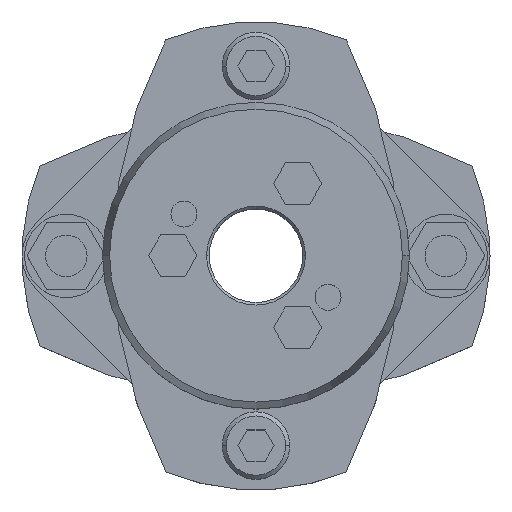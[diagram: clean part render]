
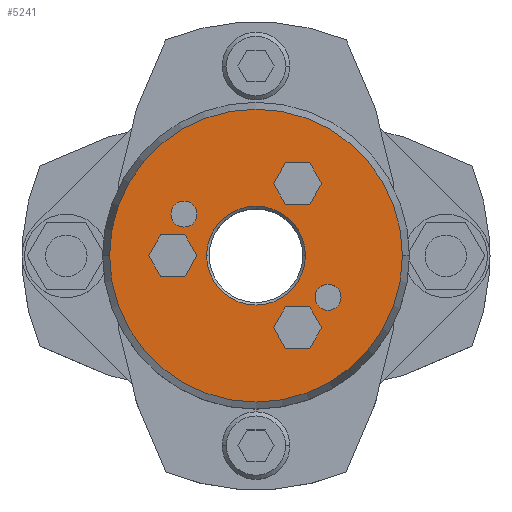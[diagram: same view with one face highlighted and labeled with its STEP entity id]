
A CAD part, top view. The second image highlights one B-rep face of the part: STEP entity #5241.
In plain terms, the highlighted planar face has unit normal (0, 0, 1).
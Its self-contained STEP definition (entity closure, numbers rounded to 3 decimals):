
#857=CARTESIAN_POINT('',(-9.5,0.,39.25));
#858=VERTEX_POINT('',#857);
#874=CARTESIAN_POINT('',(9.5,0.,39.25));
#875=VERTEX_POINT('',#874);
#882=CARTESIAN_POINT('',(0.,0.,39.25));
#883=DIRECTION('',(0.0,0.0,1.0));
#884=DIRECTION('',(-1.0,0.0,0.0));
#885=AXIS2_PLACEMENT_3D('',#882,#883,#884);
#886=CIRCLE('',#885,9.5);
#887=EDGE_CURVE('',#875,#858,#886,.T.);
#1045=CARTESIAN_POINT('',(28.16,0.,39.25));
#1046=VERTEX_POINT('',#1045);
#1053=CARTESIAN_POINT('',(-28.16,0.,39.25));
#1054=VERTEX_POINT('',#1053);
#1055=CARTESIAN_POINT('',(0.,0.,39.25));
#1056=DIRECTION('',(0.0,0.0,-1.0));
#1057=DIRECTION('',(1.0,0.0,0.0));
#1058=AXIS2_PLACEMENT_3D('',#1055,#1056,#1057);
#1059=CIRCLE('',#1058,28.16);
#1060=EDGE_CURVE('',#1046,#1054,#1059,.T.);
#1303=CARTESIAN_POINT('',(-16.356,8.,39.25));
#1304=VERTEX_POINT('',#1303);
#1320=CARTESIAN_POINT('',(-11.356,8.,39.25));
#1321=VERTEX_POINT('',#1320);
#1328=CARTESIAN_POINT('',(-13.856,8.,39.25));
#1329=DIRECTION('',(0.0,0.0,-1.0));
#1330=DIRECTION('',(-1.0,0.0,0.0));
#1331=AXIS2_PLACEMENT_3D('',#1328,#1329,#1330);
#1332=CIRCLE('',#1331,2.5);
#1333=EDGE_CURVE('',#1304,#1321,#1332,.T.);
#1345=CARTESIAN_POINT('',(11.356,-8.,39.25));
#1346=VERTEX_POINT('',#1345);
#1362=CARTESIAN_POINT('',(16.356,-8.,39.25));
#1363=VERTEX_POINT('',#1362);
#1370=CARTESIAN_POINT('',(13.856,-8.,39.25));
#1371=DIRECTION('',(0.0,0.0,-1.0));
#1372=DIRECTION('',(-1.0,0.0,0.0));
#1373=AXIS2_PLACEMENT_3D('',#1370,#1371,#1372);
#1374=CIRCLE('',#1373,2.5);
#1375=EDGE_CURVE('',#1346,#1363,#1374,.T.);
#3757=CARTESIAN_POINT('',(3.381,13.856,39.25));
#3758=VERTEX_POINT('',#3757);
#3765=CARTESIAN_POINT('',(5.691,9.856,39.25));
#3766=VERTEX_POINT('',#3765);
#3767=CARTESIAN_POINT('',(5.691,9.856,39.25));
#3768=DIRECTION('',(-0.5,0.866,0.0));
#3769=VECTOR('',#3768,4.619);
#3770=LINE('',#3767,#3769);
#3771=EDGE_CURVE('',#3766,#3758,#3770,.T.);
#3795=CARTESIAN_POINT('',(5.691,17.856,39.25));
#3796=VERTEX_POINT('',#3795);
#3803=CARTESIAN_POINT('',(3.381,13.856,39.25));
#3804=DIRECTION('',(0.5,0.866,0.0));
#3805=VECTOR('',#3804,4.619);
#3806=LINE('',#3803,#3805);
#3807=EDGE_CURVE('',#3758,#3796,#3806,.T.);
#3826=CARTESIAN_POINT('',(10.309,17.856,39.25));
#3827=VERTEX_POINT('',#3826);
#3834=CARTESIAN_POINT('',(5.691,17.856,39.25));
#3835=DIRECTION('',(1.0,0.0,0.0));
#3836=VECTOR('',#3835,4.619);
#3837=LINE('',#3834,#3836);
#3838=EDGE_CURVE('',#3796,#3827,#3837,.T.);
#3857=CARTESIAN_POINT('',(12.619,13.856,39.25));
#3858=VERTEX_POINT('',#3857);
#3865=CARTESIAN_POINT('',(10.309,17.856,39.25));
#3866=DIRECTION('',(0.5,-0.866,0.0));
#3867=VECTOR('',#3866,4.619);
#3868=LINE('',#3865,#3867);
#3869=EDGE_CURVE('',#3827,#3858,#3868,.T.);
#3888=CARTESIAN_POINT('',(10.309,9.856,39.25));
#3889=VERTEX_POINT('',#3888);
#3896=CARTESIAN_POINT('',(12.619,13.856,39.25));
#3897=DIRECTION('',(-0.5,-0.866,0.0));
#3898=VECTOR('',#3897,4.619);
#3899=LINE('',#3896,#3898);
#3900=EDGE_CURVE('',#3858,#3889,#3899,.T.);
#3918=CARTESIAN_POINT('',(10.309,9.856,39.25));
#3919=DIRECTION('',(-1.0,0.0,0.0));
#3920=VECTOR('',#3919,4.619);
#3921=LINE('',#3918,#3920);
#3922=EDGE_CURVE('',#3889,#3766,#3921,.T.);
#3957=CARTESIAN_POINT('',(-20.619,0.,39.25));
#3958=VERTEX_POINT('',#3957);
#3965=CARTESIAN_POINT('',(-18.309,-4.,39.25));
#3966=VERTEX_POINT('',#3965);
#3967=CARTESIAN_POINT('',(-18.309,-4.,39.25));
#3968=DIRECTION('',(-0.5,0.866,0.0));
#3969=VECTOR('',#3968,4.619);
#3970=LINE('',#3967,#3969);
#3971=EDGE_CURVE('',#3966,#3958,#3970,.T.);
#3995=CARTESIAN_POINT('',(-18.309,4.,39.25));
#3996=VERTEX_POINT('',#3995);
#4003=CARTESIAN_POINT('',(-20.619,0.,39.25));
#4004=DIRECTION('',(0.5,0.866,0.0));
#4005=VECTOR('',#4004,4.619);
#4006=LINE('',#4003,#4005);
#4007=EDGE_CURVE('',#3958,#3996,#4006,.T.);
#4026=CARTESIAN_POINT('',(-13.691,4.,39.25));
#4027=VERTEX_POINT('',#4026);
#4034=CARTESIAN_POINT('',(-18.309,4.,39.25));
#4035=DIRECTION('',(1.0,0.0,0.0));
#4036=VECTOR('',#4035,4.619);
#4037=LINE('',#4034,#4036);
#4038=EDGE_CURVE('',#3996,#4027,#4037,.T.);
#4057=CARTESIAN_POINT('',(-11.381,0.,39.25));
#4058=VERTEX_POINT('',#4057);
#4065=CARTESIAN_POINT('',(-13.691,4.,39.25));
#4066=DIRECTION('',(0.5,-0.866,0.0));
#4067=VECTOR('',#4066,4.619);
#4068=LINE('',#4065,#4067);
#4069=EDGE_CURVE('',#4027,#4058,#4068,.T.);
#4088=CARTESIAN_POINT('',(-13.691,-4.,39.25));
#4089=VERTEX_POINT('',#4088);
#4096=CARTESIAN_POINT('',(-11.381,0.,39.25));
#4097=DIRECTION('',(-0.5,-0.866,0.0));
#4098=VECTOR('',#4097,4.619);
#4099=LINE('',#4096,#4098);
#4100=EDGE_CURVE('',#4058,#4089,#4099,.T.);
#4118=CARTESIAN_POINT('',(-13.691,-4.,39.25));
#4119=DIRECTION('',(-1.0,0.0,0.0));
#4120=VECTOR('',#4119,4.619);
#4121=LINE('',#4118,#4120);
#4122=EDGE_CURVE('',#4089,#3966,#4121,.T.);
#4157=CARTESIAN_POINT('',(3.381,-13.856,39.25));
#4158=VERTEX_POINT('',#4157);
#4165=CARTESIAN_POINT('',(5.691,-17.856,39.25));
#4166=VERTEX_POINT('',#4165);
#4167=CARTESIAN_POINT('',(5.691,-17.856,39.25));
#4168=DIRECTION('',(-0.5,0.866,0.0));
#4169=VECTOR('',#4168,4.619);
#4170=LINE('',#4167,#4169);
#4171=EDGE_CURVE('',#4166,#4158,#4170,.T.);
#4195=CARTESIAN_POINT('',(5.691,-9.856,39.25));
#4196=VERTEX_POINT('',#4195);
#4203=CARTESIAN_POINT('',(3.381,-13.856,39.25));
#4204=DIRECTION('',(0.5,0.866,0.0));
#4205=VECTOR('',#4204,4.619);
#4206=LINE('',#4203,#4205);
#4207=EDGE_CURVE('',#4158,#4196,#4206,.T.);
#4226=CARTESIAN_POINT('',(10.309,-9.856,39.25));
#4227=VERTEX_POINT('',#4226);
#4234=CARTESIAN_POINT('',(5.691,-9.856,39.25));
#4235=DIRECTION('',(1.0,0.0,0.0));
#4236=VECTOR('',#4235,4.619);
#4237=LINE('',#4234,#4236);
#4238=EDGE_CURVE('',#4196,#4227,#4237,.T.);
#4257=CARTESIAN_POINT('',(12.619,-13.856,39.25));
#4258=VERTEX_POINT('',#4257);
#4265=CARTESIAN_POINT('',(10.309,-9.856,39.25));
#4266=DIRECTION('',(0.5,-0.866,0.0));
#4267=VECTOR('',#4266,4.619);
#4268=LINE('',#4265,#4267);
#4269=EDGE_CURVE('',#4227,#4258,#4268,.T.);
#4288=CARTESIAN_POINT('',(10.309,-17.856,39.25));
#4289=VERTEX_POINT('',#4288);
#4296=CARTESIAN_POINT('',(12.619,-13.856,39.25));
#4297=DIRECTION('',(-0.5,-0.866,0.0));
#4298=VECTOR('',#4297,4.619);
#4299=LINE('',#4296,#4298);
#4300=EDGE_CURVE('',#4258,#4289,#4299,.T.);
#4318=CARTESIAN_POINT('',(10.309,-17.856,39.25));
#4319=DIRECTION('',(-1.0,0.0,0.0));
#4320=VECTOR('',#4319,4.619);
#4321=LINE('',#4318,#4320);
#4322=EDGE_CURVE('',#4289,#4166,#4321,.T.);
#4348=CARTESIAN_POINT('',(13.856,-8.,39.25));
#4349=DIRECTION('',(0.0,0.0,-1.0));
#4350=DIRECTION('',(-1.0,0.0,0.0));
#4351=AXIS2_PLACEMENT_3D('',#4348,#4349,#4350);
#4352=CIRCLE('',#4351,2.5);
#4353=EDGE_CURVE('',#1363,#1346,#4352,.T.);
#4382=CARTESIAN_POINT('',(-13.856,8.,39.25));
#4383=DIRECTION('',(0.0,0.0,-1.0));
#4384=DIRECTION('',(-1.0,0.0,0.0));
#4385=AXIS2_PLACEMENT_3D('',#4382,#4383,#4384);
#4386=CIRCLE('',#4385,2.5);
#4387=EDGE_CURVE('',#1321,#1304,#4386,.T.);
#5180=CARTESIAN_POINT('',(0.,0.,39.25));
#5181=DIRECTION('',(0.0,0.0,-1.0));
#5182=DIRECTION('',(1.0,0.0,0.0));
#5183=AXIS2_PLACEMENT_3D('',#5180,#5181,#5182);
#5184=CIRCLE('',#5183,28.16);
#5185=EDGE_CURVE('',#1054,#1046,#5184,.T.);
#5190=CARTESIAN_POINT('',(-2.682,0.,39.25));
#5191=DIRECTION('',(0.0,0.0,1.0));
#5192=DIRECTION('',(-1.0,0.0,0.0));
#5193=AXIS2_PLACEMENT_3D('',#5190,#5191,#5192);
#5194=PLANE('',#5193);
#5195=ORIENTED_EDGE('',*,*,#5185,.F.);
#5196=ORIENTED_EDGE('',*,*,#1060,.F.);
#5197=EDGE_LOOP('',(#5195,#5196));
#5198=FACE_OUTER_BOUND('',#5197,.T.);
#5199=ORIENTED_EDGE('',*,*,#3771,.T.);
#5200=ORIENTED_EDGE('',*,*,#3807,.T.);
#5201=ORIENTED_EDGE('',*,*,#3838,.T.);
#5202=ORIENTED_EDGE('',*,*,#3869,.T.);
#5203=ORIENTED_EDGE('',*,*,#3900,.T.);
#5204=ORIENTED_EDGE('',*,*,#3922,.T.);
#5205=EDGE_LOOP('',(#5199,#5200,#5201,#5202,#5203,#5204));
#5206=FACE_BOUND('',#5205,.T.);
#5207=ORIENTED_EDGE('',*,*,#3971,.T.);
#5208=ORIENTED_EDGE('',*,*,#4007,.T.);
#5209=ORIENTED_EDGE('',*,*,#4038,.T.);
#5210=ORIENTED_EDGE('',*,*,#4069,.T.);
#5211=ORIENTED_EDGE('',*,*,#4100,.T.);
#5212=ORIENTED_EDGE('',*,*,#4122,.T.);
#5213=EDGE_LOOP('',(#5207,#5208,#5209,#5210,#5211,#5212));
#5214=FACE_BOUND('',#5213,.T.);
#5215=ORIENTED_EDGE('',*,*,#4171,.T.);
#5216=ORIENTED_EDGE('',*,*,#4207,.T.);
#5217=ORIENTED_EDGE('',*,*,#4238,.T.);
#5218=ORIENTED_EDGE('',*,*,#4269,.T.);
#5219=ORIENTED_EDGE('',*,*,#4300,.T.);
#5220=ORIENTED_EDGE('',*,*,#4322,.T.);
#5221=EDGE_LOOP('',(#5215,#5216,#5217,#5218,#5219,#5220));
#5222=FACE_BOUND('',#5221,.T.);
#5223=ORIENTED_EDGE('',*,*,#1375,.T.);
#5224=ORIENTED_EDGE('',*,*,#4353,.T.);
#5225=EDGE_LOOP('',(#5223,#5224));
#5226=FACE_BOUND('',#5225,.T.);
#5227=ORIENTED_EDGE('',*,*,#1333,.T.);
#5228=ORIENTED_EDGE('',*,*,#4387,.T.);
#5229=EDGE_LOOP('',(#5227,#5228));
#5230=FACE_BOUND('',#5229,.T.);
#5231=ORIENTED_EDGE('',*,*,#887,.F.);
#5232=CARTESIAN_POINT('',(0.,0.,39.25));
#5233=DIRECTION('',(0.0,0.0,1.0));
#5234=DIRECTION('',(-1.0,0.0,0.0));
#5235=AXIS2_PLACEMENT_3D('',#5232,#5233,#5234);
#5236=CIRCLE('',#5235,9.5);
#5237=EDGE_CURVE('',#858,#875,#5236,.T.);
#5238=ORIENTED_EDGE('',*,*,#5237,.F.);
#5239=EDGE_LOOP('',(#5231,#5238));
#5240=FACE_BOUND('',#5239,.T.);
#5241=ADVANCED_FACE('',(#5198,#5206,#5214,#5222,#5226,#5230,#5240),#5194,.T.);
